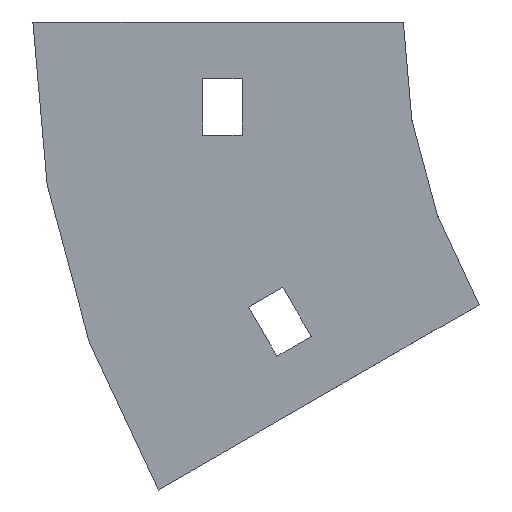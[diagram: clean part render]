
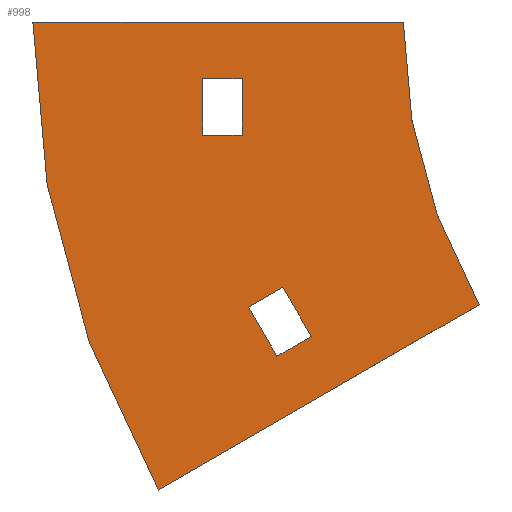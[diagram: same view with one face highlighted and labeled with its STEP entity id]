
A CAD part, left-side view. The second image highlights one B-rep face of the part: STEP entity #998.
In plain terms, the highlighted planar face has unit normal (-1, 0, 0).
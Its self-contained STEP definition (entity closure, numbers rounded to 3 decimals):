
#4 = ORIENTED_EDGE ( 'NONE', *, *, #62, .F. ) ;
#17 = DIRECTION ( 'NONE',  ( 0., 0., 1. ) ) ;
#18 = ORIENTED_EDGE ( 'NONE', *, *, #111, .T. ) ;
#41 = LINE ( 'NONE', #217, #90 ) ;
#50 = ORIENTED_EDGE ( 'NONE', *, *, #704, .F. ) ;
#56 = ORIENTED_EDGE ( 'NONE', *, *, #881, .F. ) ;
#62 = EDGE_CURVE ( 'NONE', #473, #792, #550, .T. ) ;
#65 = VERTEX_POINT ( 'NONE', #1087 ) ;
#80 = DIRECTION ( 'NONE',  ( 0., 0., 1. ) ) ;
#83 = EDGE_CURVE ( 'NONE', #877, #473, #855, .T. ) ;
#90 = VECTOR ( 'NONE', #569, 1000. ) ;
#94 = CARTESIAN_POINT ( 'NONE',  ( -202., -13.397, -50. ) ) ;
#111 = EDGE_CURVE ( 'NONE', #248, #461, #766, .T. ) ;
#117 = CARTESIAN_POINT ( 'NONE',  ( -202., -13.397, -50. ) ) ;
#121 = FACE_OUTER_BOUND ( 'NONE', #351, .T. ) ;
#124 = LINE ( 'NONE', #133, #558 ) ;
#131 = VECTOR ( 'NONE', #135, 1000. ) ;
#133 = CARTESIAN_POINT ( 'NONE',  ( -202., 35.5, -10. ) ) ;
#135 = DIRECTION ( 'NONE',  ( 0., 0., -1. ) ) ;
#140 = EDGE_CURVE ( 'NONE', #65, #248, #676, .T. ) ;
#181 = ORIENTED_EDGE ( 'NONE', *, *, #477, .F. ) ;
#183 = CARTESIAN_POINT ( 'NONE',  ( -202., -100., 0. ) ) ;
#193 = DIRECTION ( 'NONE',  ( 0., 0.5, 0.866 ) ) ;
#217 = CARTESIAN_POINT ( 'NONE',  ( -202., 22.346, -59.09 ) ) ;
#220 = ORIENTED_EDGE ( 'NONE', *, *, #857, .F. ) ;
#240 = LINE ( 'NONE', #1118, #131 ) ;
#242 = VECTOR ( 'NONE', #417, 1000. ) ;
#248 = VERTEX_POINT ( 'NONE', #1043 ) ;
#292 = CARTESIAN_POINT ( 'NONE',  ( -202., 28.5, -10. ) ) ;
#297 = DIRECTION ( 'NONE',  ( -1., 0., 0. ) ) ;
#300 = CARTESIAN_POINT ( 'NONE',  ( -202., 65.5, 0. ) ) ;
#302 = CARTESIAN_POINT ( 'NONE',  ( -202., 35.5, -10. ) ) ;
#315 = AXIS2_PLACEMENT_3D ( 'NONE', #824, #730, #17 ) ;
#329 = LINE ( 'NONE', #786, #844 ) ;
#343 = EDGE_LOOP ( 'NONE', ( #181, #50, #705, #851 ) ) ;
#351 = EDGE_LOOP ( 'NONE', ( #949, #220, #56, #4 ) ) ;
#356 = ORIENTED_EDGE ( 'NONE', *, *, #140, .T. ) ;
#366 = CARTESIAN_POINT ( 'NONE',  ( -202., 35.5, -10. ) ) ;
#391 = AXIS2_PLACEMENT_3D ( 'NONE', #183, #790, #80 ) ;
#400 = EDGE_LOOP ( 'NONE', ( #1036, #893, #356, #18 ) ) ;
#402 = LINE ( 'NONE', #757, #481 ) ;
#409 = CIRCLE ( 'NONE', #391, 165.5 ) ;
#417 = DIRECTION ( 'NONE',  ( 0., -1., 0. ) ) ;
#461 = VERTEX_POINT ( 'NONE', #366 ) ;
#471 = FACE_BOUND ( 'NONE', #343, .T. ) ;
#473 = VERTEX_POINT ( 'NONE', #94 ) ;
#477 = EDGE_CURVE ( 'NONE', #753, #627, #810, .T. ) ;
#481 = VECTOR ( 'NONE', #494, 1000. ) ;
#494 = DIRECTION ( 'NONE',  ( 0., -0.866, 0.5 ) ) ;
#531 = VECTOR ( 'NONE', #1019, 1000. ) ;
#550 = LINE ( 'NONE', #117, #738 ) ;
#558 = VECTOR ( 'NONE', #915, 1000. ) ;
#569 = DIRECTION ( 'NONE',  ( 0., -0.5, -0.866 ) ) ;
#572 = PLANE ( 'NONE',  #315 ) ;
#599 = CARTESIAN_POINT ( 'NONE',  ( -202., 43.327, -82.75 ) ) ;
#605 = CARTESIAN_POINT ( 'NONE',  ( -202., 16.284, -55.59 ) ) ;
#618 = CARTESIAN_POINT ( 'NONE',  ( -202., 0., 0. ) ) ;
#627 = VERTEX_POINT ( 'NONE', #807 ) ;
#640 = CARTESIAN_POINT ( 'NONE',  ( -202., -100., 0. ) ) ;
#644 = FACE_BOUND ( 'NONE', #400, .T. ) ;
#654 = EDGE_CURVE ( 'NONE', #461, #726, #124, .T. ) ;
#658 = CARTESIAN_POINT ( 'NONE',  ( -202., 35.5, -20. ) ) ;
#671 = LINE ( 'NONE', #1122, #242 ) ;
#673 = CARTESIAN_POINT ( 'NONE',  ( -202., 27.346, -50.429 ) ) ;
#676 = LINE ( 'NONE', #658, #839 ) ;
#682 = DIRECTION ( 'NONE',  ( 0., 0.866, -0.5 ) ) ;
#683 = EDGE_CURVE ( 'NONE', #1099, #1128, #41, .T. ) ;
#704 = EDGE_CURVE ( 'NONE', #1128, #753, #402, .T. ) ;
#705 = ORIENTED_EDGE ( 'NONE', *, *, #683, .F. ) ;
#726 = VERTEX_POINT ( 'NONE', #292 ) ;
#730 = DIRECTION ( 'NONE',  ( -1., 0., 0. ) ) ;
#733 = EDGE_CURVE ( 'NONE', #627, #1099, #329, .T. ) ;
#738 = VECTOR ( 'NONE', #744, 1000. ) ;
#744 = DIRECTION ( 'NONE',  ( 0., 0.866, -0.5 ) ) ;
#753 = VERTEX_POINT ( 'NONE', #605 ) ;
#756 = DIRECTION ( 'NONE',  ( 0., 1., 0. ) ) ;
#757 = CARTESIAN_POINT ( 'NONE',  ( -202., 22.346, -59.09 ) ) ;
#766 = LINE ( 'NONE', #302, #531 ) ;
#786 = CARTESIAN_POINT ( 'NONE',  ( -202., 27.346, -50.429 ) ) ;
#790 = DIRECTION ( 'NONE',  ( 1., 0., 0. ) ) ;
#792 = VERTEX_POINT ( 'NONE', #599 ) ;
#807 = CARTESIAN_POINT ( 'NONE',  ( -202., 21.284, -46.929 ) ) ;
#810 = LINE ( 'NONE', #1147, #1032 ) ;
#824 = CARTESIAN_POINT ( 'NONE',  ( -202., -100., 0. ) ) ;
#839 = VECTOR ( 'NONE', #756, 1000. ) ;
#844 = VECTOR ( 'NONE', #682, 1000. ) ;
#851 = ORIENTED_EDGE ( 'NONE', *, *, #733, .F. ) ;
#855 = CIRCLE ( 'NONE', #989, 100. ) ;
#857 = EDGE_CURVE ( 'NONE', #977, #877, #671, .T. ) ;
#877 = VERTEX_POINT ( 'NONE', #618 ) ;
#881 = EDGE_CURVE ( 'NONE', #792, #977, #409, .T. ) ;
#893 = ORIENTED_EDGE ( 'NONE', *, *, #1106, .T. ) ;
#915 = DIRECTION ( 'NONE',  ( 0., -1., 0. ) ) ;
#949 = ORIENTED_EDGE ( 'NONE', *, *, #83, .F. ) ;
#977 = VERTEX_POINT ( 'NONE', #300 ) ;
#989 = AXIS2_PLACEMENT_3D ( 'NONE', #640, #297, #1094 ) ;
#998 = ADVANCED_FACE ( 'NONE', ( #644, #121, #471 ), #572, .T. ) ;
#1019 = DIRECTION ( 'NONE',  ( 0., 0., 1. ) ) ;
#1022 = CARTESIAN_POINT ( 'NONE',  ( -202., 22.346, -59.09 ) ) ;
#1032 = VECTOR ( 'NONE', #193, 1000. ) ;
#1036 = ORIENTED_EDGE ( 'NONE', *, *, #654, .T. ) ;
#1043 = CARTESIAN_POINT ( 'NONE',  ( -202., 35.5, -20. ) ) ;
#1087 = CARTESIAN_POINT ( 'NONE',  ( -202., 28.5, -20. ) ) ;
#1094 = DIRECTION ( 'NONE',  ( 0., 0., 1. ) ) ;
#1099 = VERTEX_POINT ( 'NONE', #673 ) ;
#1106 = EDGE_CURVE ( 'NONE', #726, #65, #240, .T. ) ;
#1118 = CARTESIAN_POINT ( 'NONE',  ( -202., 28.5, -10. ) ) ;
#1122 = CARTESIAN_POINT ( 'NONE',  ( -202., 65.5, 0. ) ) ;
#1128 = VERTEX_POINT ( 'NONE', #1022 ) ;
#1147 = CARTESIAN_POINT ( 'NONE',  ( -202., 16.284, -55.59 ) ) ;
